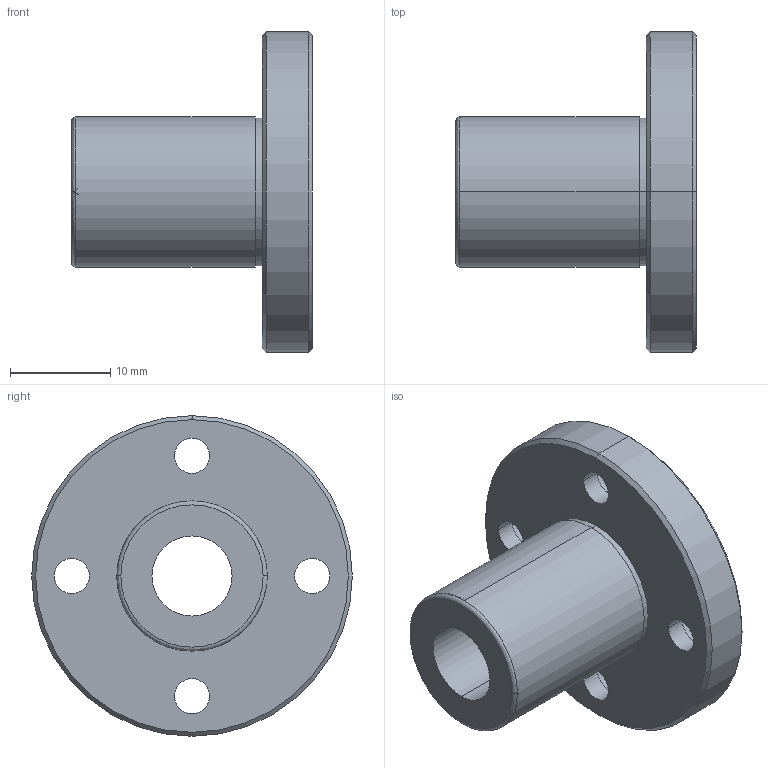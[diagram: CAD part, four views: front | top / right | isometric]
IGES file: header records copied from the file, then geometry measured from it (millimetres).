
Start section: 3D InterOp IGES (Version 21 0 1), Spatial Corp. Copyright (c) 1999-2007.
Global section: file name: NFED-8VUU.igs; native system: Spatial Corp.; preprocessor: 3D InterOp GENERIC/IGES 3.0; author: Noname; organization: Noname; date: 20220308.094012; units: millimetre
Bounding box: 24 x 32 x 32 mm (x, y, z)
Surface area: 3873.3 mm2 (no closed solid volume)
Topology: 0 solids, 0 shells, 38 faces, 178 edges, 176 vertices
Faces by surface type: revolution 30, extrusion 8
